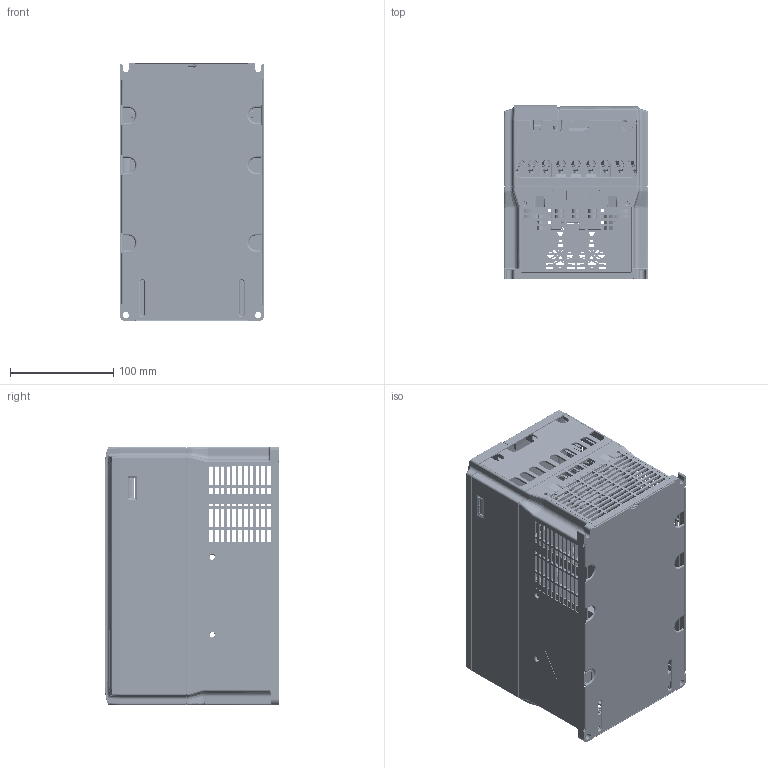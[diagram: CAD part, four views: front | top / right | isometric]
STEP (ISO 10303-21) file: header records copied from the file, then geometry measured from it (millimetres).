
FILE_DESCRIPTION((''),'2;1');
FILE_NAME('000-MVT113ZGB-520_ASM','2021-12-10T',('h2718'),(''),'CREO PARAMETRIC BY PTC INC, 2015290','CREO PARAMETRIC BY PTC INC, 2015290','');
FILE_SCHEMA(('AP203_CONFIGURATION_CONTROLLED_3D_DESIGN_OF_MECHANICAL_PARTS_AND_ASSEMBLIES_MIM_LF { 1 0 10303 403 2 1 2 }'));
Products named in the file (22): 20210431-LJ_59_1; 20210432-LJ_55_5; 20210435-LJ_12_3; 20210436-LJ_21_7; 20210437-LJ_15_3; 20210438-LJ_2_1; 20210440-LJ_25_6; MVT113ZGB-SUJIAO__ASM; 50A_V2_2_1_3_1; 50A_V2_2_2_1_1; 50A_V2_2_3_1_1; 50A_V2_2_4_1_1_1; 50A_V2_2_4_1_2_1; 50A_V2_2_4_1_ASM_1_ASM; 50A_V2_2_ASM_2_ASM_1_ASM; 20130612-LJ_19_3; 20212498; 520-KZB-20211209; 520-AJZJ-01-20211209; 001-520-ZUJIAN_ASM; 20441162; 000-MVT113ZGB-520_ASM
Assembly tree (37 placements, depth 4):
  000-MVT113ZGB-520_ASM
    MVT113ZGB-SUJIAO__ASM
      20210431-LJ_59_1
      20210432-LJ_55_5
      20210435-LJ_12_3
      20210436-LJ_21_7
      20210437-LJ_15_3
      20210438-LJ_2_1
      20210440-LJ_25_6
    50A_V2_2_ASM_2_ASM_1_ASM
      50A_V2_2_1_3_1
      50A_V2_2_2_1_1
      50A_V2_2_3_1_1  x9
      50A_V2_2_4_1_ASM_1_ASM  x9
        50A_V2_2_4_1_1_1
        50A_V2_2_4_1_2_1
    20130612-LJ_19_3
    20212498
    001-520-ZUJIAN_ASM
      520-KZB-20211209
      520-AJZJ-01-20211209
    20441162
Bounding box: 140.01 x 168.3 x 250 mm (x, y, z)
Volume: 536038.6 mm3; surface area: 672975.2 mm2
Topology: 69 solids, 92 shells, 17446 faces, 49312 edges, 31829 vertices
Faces by surface type: plane 9868, cylinder 4795, bspline 922, torus 918, cone 706, sphere 124, extrusion 103, revolution 10
Entity records: 728054 total; most frequent: CARTESIAN_POINT 166260, ORIENTED_EDGE 87252, DIRECTION 80678, PRESENTATION_STYLE_ASSIGNMENT 47072, STYLED_ITEM 44302, CURVE_STYLE 44247, EDGE_CURVE 43645, VECTOR 29808
